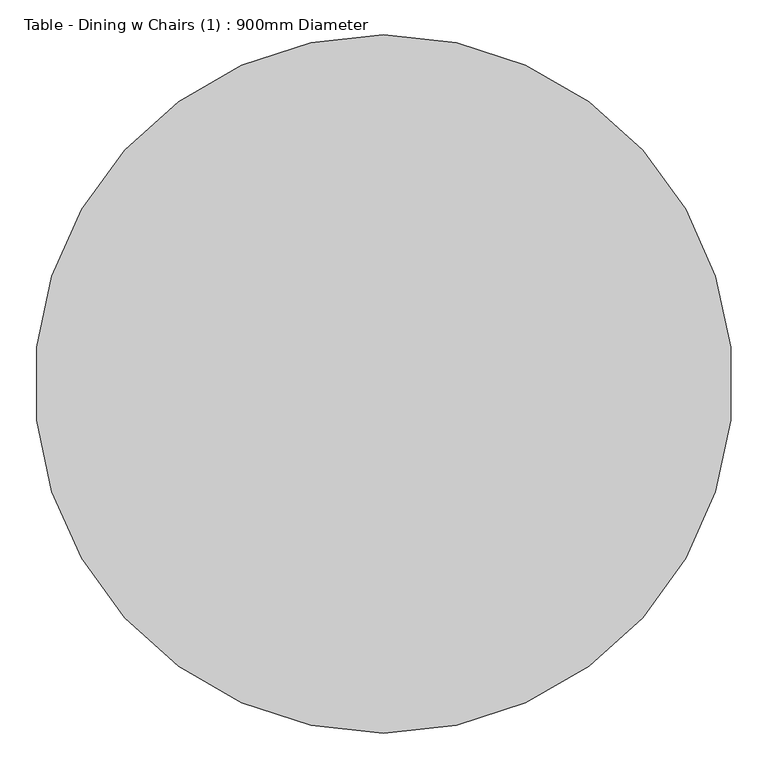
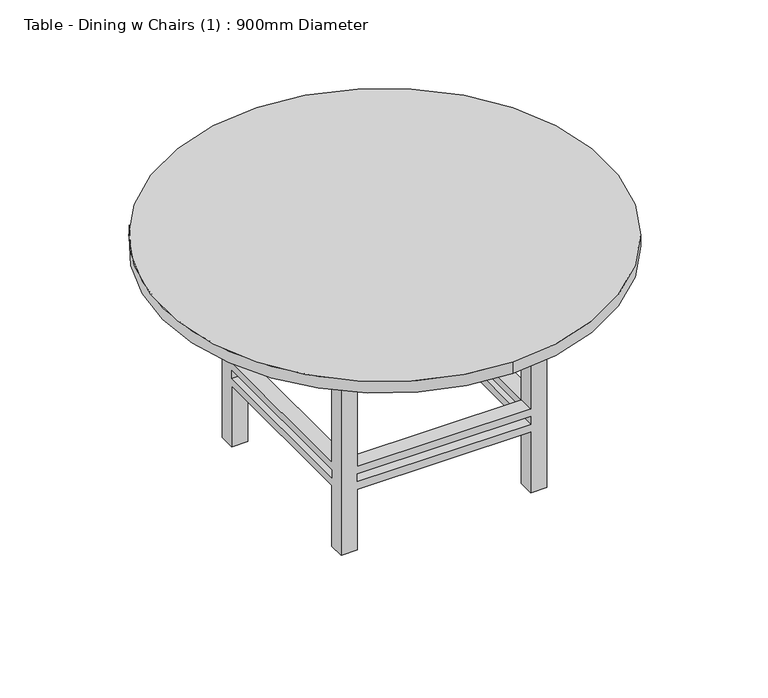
"""IFC4 building model written with IfcOpenShell, lengths in millimetres: furniture geometry, Table - Dining w Chairs (1) : 900mm Diameter."""

from ifc_helpers import new_model, si_unit, point, frame, frame_2d, origin, place, context, project, spatial, polyline, circle_curve, trimmed, segment, composite_curve, outline, extrude, faceted_brep, source, transform, mapped, element, save


def table_dining_w_chairs_1_900mm_diameter_3745d905(model_context):
    return source(origin(), model_context, "Body", "SolidModel", [
        faceted_brep([(-170.1180328, 139.7213115, 645.7), (-220.9180328, 139.7213115, 645.7), (-220.9180328, 88.9213115, 645.7), (-170.1180328, 88.9213115, 645.7), (377.4819672, 139.7213115, 645.7), (377.4819672, 88.9213115, 645.7), (428.2819672, 88.9213115, 645.7), (428.2819672, 139.7213115, 645.7), (377.4819672, -509.4786885, 645.7), (428.2819672, -509.4786885, 645.7), (428.2819672, -458.6786885, 645.7), (377.4819672, -458.6786885, 645.7), (-170.1180328, -509.4786885, 645.7), (-170.1180328, -458.6786885, 645.7), (-220.9180328, -458.6786885, 645.7), (-220.9180328, -509.4786885, 645.7), (-170.1180328, 139.7213115, 0.0), (-170.1180328, 88.9213115, 0.0), (-220.9180328, 88.9213115, 0.0), (-220.9180328, 139.7213115, 0.0), (377.4819672, 139.7213115, 0.0), (428.2819672, 139.7213115, 0.0), (428.2819672, 88.9213115, 0.0), (377.4819672, 88.9213115, 0.0), (377.4819672, -509.4786885, 0.0), (377.4819672, -458.6786885, 0.0), (428.2819672, -458.6786885, 0.0), (428.2819672, -509.4786885, 0.0), (-170.1180328, -509.4786885, 0.0), (-220.9180328, -509.4786885, 0.0), (-220.9180328, -458.6786885, 0.0), (-170.1180328, -458.6786885, 0.0), (-170.1180328, 139.7213115, 279.4), (377.4819672, 139.7213115, 279.4), (377.4819672, 139.7213115, 203.2), (-170.1180328, 139.7213115, 203.2), (377.4819672, 139.7213115, 228.6), (377.4819672, 139.7213115, 254.0), (-170.1180328, 139.7213115, 254.0), (-170.1180328, 139.7213115, 228.6), (-220.9180328, 88.9213115, 203.2), (-220.9180328, -458.6786885, 203.2), (-220.9180328, -458.6786885, 279.4), (-220.9180328, 88.9213115, 279.4), (-220.9180328, 88.9213115, 228.6), (-220.9180328, 88.9213115, 254.0), (-220.9180328, -458.6786885, 254.0), (-220.9180328, -458.6786885, 228.6), (-170.1180328, 88.9213115, 279.4), (-170.1180328, 88.9213115, 203.2), (-170.1180328, 88.9213115, 228.6), (-170.1180328, 88.9213115, 254.0), (377.4819672, 88.9213115, 279.4), (377.4819672, 88.9213115, 203.2), (377.4819672, 88.9213115, 228.6), (377.4819672, 88.9213115, 254.0), (428.2819672, 88.9213115, 279.4), (428.2819672, 88.9213115, 203.2), (428.2819672, 88.9213115, 228.6), (428.2819672, 88.9213115, 254.0), (428.2819672, -458.6786885, 279.4), (428.2819672, -458.6786885, 203.2), (428.2819672, -458.6786885, 228.6), (428.2819672, -458.6786885, 254.0), (377.4819672, -509.4786885, 279.4), (-170.1180328, -509.4786885, 279.4), (-170.1180328, -509.4786885, 203.2), (377.4819672, -509.4786885, 203.2), (-170.1180328, -509.4786885, 228.6), (-170.1180328, -509.4786885, 254.0), (377.4819672, -509.4786885, 254.0), (377.4819672, -509.4786885, 228.6), (377.4819672, -458.6786885, 279.4), (377.4819672, -458.6786885, 203.2), (377.4819672, -458.6786885, 228.6), (377.4819672, -458.6786885, 254.0), (-170.1180328, -458.6786885, 279.4), (-170.1180328, -458.6786885, 203.2), (-170.1180328, -458.6786885, 228.6), (-170.1180328, -458.6786885, 254.0)], [[[0, 1, 2, 3]], [[4, 5, 6, 7]], [[8, 9, 10, 11]], [[12, 13, 14, 15]], [[16, 17, 18, 19]], [[20, 21, 22, 23]], [[24, 25, 26, 27]], [[28, 29, 30, 31]], [[1, 0, 32, 33, 4, 7, 21, 20, 34, 35, 16, 19], [36, 37, 38, 39]], [[2, 1, 19, 18, 40, 41, 30, 29, 15, 14, 42, 43], [44, 45, 46, 47]], [[3, 2, 43, 48]], [[18, 17, 49, 40]], [[44, 50, 51, 45]], [[0, 3, 48, 32]], [[17, 16, 35, 49]], [[50, 39, 38, 51]], [[5, 4, 33, 52]], [[20, 23, 53, 34]], [[36, 54, 55, 37]], [[6, 5, 52, 56]], [[23, 22, 57, 53]], [[54, 58, 59, 55]], [[21, 7, 6, 56, 60, 10, 9, 27, 26, 61, 57, 22], [62, 63, 59, 58]], [[27, 9, 8, 64, 65, 12, 15, 29, 28, 66, 67, 24], [68, 69, 70, 71]], [[11, 10, 60, 72]], [[26, 25, 73, 61]], [[62, 74, 75, 63]], [[8, 11, 72, 64]], [[25, 24, 67, 73]], [[74, 71, 70, 75]], [[13, 12, 65, 76]], [[28, 31, 77, 66]], [[68, 78, 79, 69]], [[14, 13, 76, 42]], [[31, 30, 41, 77]], [[78, 47, 46, 79]], [[54, 74, 62, 58]], [[74, 78, 68, 71]], [[78, 50, 44, 47]], [[50, 54, 36, 39]], [[53, 49, 35, 34]], [[49, 77, 41, 40]], [[77, 73, 67, 66]], [[73, 53, 57, 61]], [[74, 54, 53, 73]], [[78, 74, 73, 77]], [[50, 78, 77, 49]], [[54, 50, 49, 53]], [[52, 72, 60, 56]], [[72, 76, 65, 64]], [[76, 48, 43, 42]], [[48, 52, 33, 32]], [[55, 51, 38, 37]], [[51, 79, 46, 45]], [[79, 75, 70, 69]], [[75, 55, 59, 63]], [[72, 52, 55, 75]], [[76, 72, 75, 79]], [[48, 76, 79, 51]], [[52, 48, 51, 55]]]),
        extrude(outline(polyline([(453.6819672, 165.1213115), (453.6819672, -534.8786885), (-246.3180328, -534.8786885), (-246.3180328, 165.1213115), (453.6819672, 165.1213115)]), holes=[polyline([(428.2819672, 139.7213115), (-220.9180328, 139.7213115), (-220.9180328, -509.4786885), (428.2819672, -509.4786885), (428.2819672, 139.7213115)])]), frame((0.0, 0.0, 645.7), z_axis=(0.0, 0.0, 1.0), x_axis=(1.0, 0.0, 0.0)), (0.0, 0.0, 1.0), 76.2),
        extrude(outline(composite_curve([segment(trimmed(circle_curve(frame_2d((103.6819672, -184.8786885)), 700.0), [point((103.6819672, -884.8786885))], [point((103.6819672, 515.1213115))], False, "CARTESIAN"), True, "CONTINUOUS"), segment(trimmed(circle_curve(frame_2d((103.6819672, -184.8786885)), 700.0), [point((103.6819672, 515.1213115))], [point((103.6819672, -884.8786885))], False, "CARTESIAN"), True, "CONTINUOUS")], self_intersect=False)), frame((0.0, 0.0, 721.9), z_axis=(0.0, 0.0, 1.0), x_axis=(1.0, 0.0, 0.0)), (0.0, 0.0, 1.0), 38.1),
    ])


if __name__ == "__main__":
    model = new_model("IFC4")
    model_context = context("Model", 3, world=origin())
    ifc_project = project(units=[si_unit("LENGTHUNIT", "METRE", prefix="MILLI")], contexts=[model_context])
    site = spatial("IfcSite", under=ifc_project)
    building = spatial("IfcBuilding", under=site)
    placement = place(None, origin())
    table_dining_w_chairs_1_900mm_diameter_shape = table_dining_w_chairs_1_900mm_diameter_3745d905(model_context)
    element("IfcFurniture", 1, ObjectType="Table - Dining w Chairs (1) : 900mm Diameter", at=placement, inside=building, context=model_context, shape_type="MappedRepresentation", body=[
        mapped(table_dining_w_chairs_1_900mm_diameter_shape, transform((0.0, 0.0, 0.0), x_axis=(1.0, 0.0, 0.0), y_axis=(0.0, 1.0, 0.0), z_axis=(0.0, 0.0, 1.0))),
    ])
    save(model, "model.ifc")
